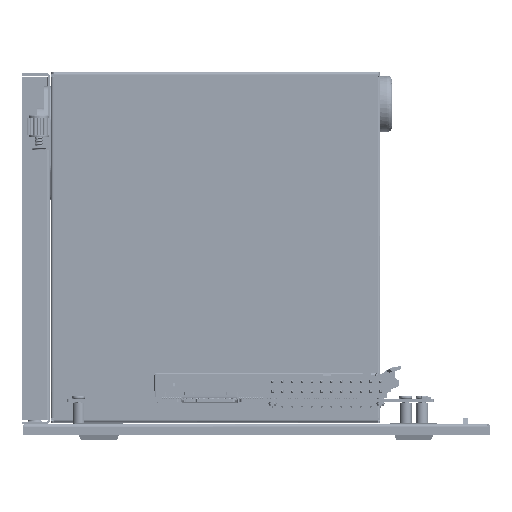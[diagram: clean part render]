
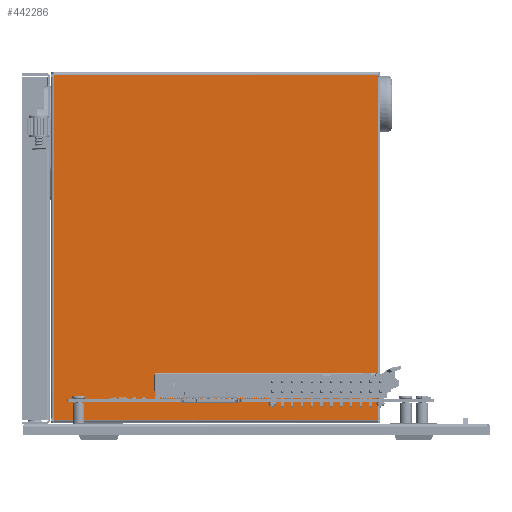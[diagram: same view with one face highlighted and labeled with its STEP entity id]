
A CAD part, front view. The second image highlights one B-rep face of the part: STEP entity #442286.
In plain terms, the highlighted free-form (B-spline) face has degree [1, 1] with [2, 2] control points.
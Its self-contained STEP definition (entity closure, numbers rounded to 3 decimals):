
#440216 = VERTEX_POINT('',#440217);
#440217 = CARTESIAN_POINT('',(-73.8,0.,-69.3)
  );
#440296 = VERTEX_POINT('',#440297);
#440297 = CARTESIAN_POINT('',(-73.,0.,
    -69.3));
#440332 = VERTEX_POINT('',#440333);
#440333 = CARTESIAN_POINT('',(73.,0.,
    -69.3));
#440411 = VERTEX_POINT('',#440412);
#440412 = CARTESIAN_POINT('',(73.8,0.,-69.3)
  );
#440448 = VERTEX_POINT('',#440449);
#440449 = CARTESIAN_POINT('',(73.8,0.,69.3));
#440509 = VERTEX_POINT('',#440510);
#440510 = CARTESIAN_POINT('',(-73.8,0.,69.3));
#441436 = EDGE_CURVE('',#440509,#440216,#441437,.T.);
#441437 = B_SPLINE_CURVE_WITH_KNOTS('',1,(#441438,#441439),
  .UNSPECIFIED.,.F.,.F.,(2,2),(0.,1.),.PIECEWISE_BEZIER_KNOTS.);
#441438 = CARTESIAN_POINT('',(-73.8,0.,69.3));
#441439 = CARTESIAN_POINT('',(-73.8,0.,-69.3));
#441452 = EDGE_CURVE('',#440216,#440296,#441453,.T.);
#441453 = B_SPLINE_CURVE_WITH_KNOTS('',1,(#441454,#441455),
  .UNSPECIFIED.,.F.,.F.,(2,2),(0.,1.),.PIECEWISE_BEZIER_KNOTS.);
#441454 = CARTESIAN_POINT('',(-73.8,0.,-69.3));
#441455 = CARTESIAN_POINT('',(-73.,0.,-69.3));
#441474 = EDGE_CURVE('',#440296,#440332,#441475,.T.);
#441475 = B_SPLINE_CURVE_WITH_KNOTS('',1,(#441476,#441477),
  .UNSPECIFIED.,.F.,.F.,(2,2),(0.,1.),.PIECEWISE_BEZIER_KNOTS.);
#441476 = CARTESIAN_POINT('',(-73.,0.,-69.3));
#441477 = CARTESIAN_POINT('',(73.,0.,-69.3));
#441489 = EDGE_CURVE('',#440332,#440411,#441490,.T.);
#441490 = B_SPLINE_CURVE_WITH_KNOTS('',1,(#441491,#441492),
  .UNSPECIFIED.,.F.,.F.,(2,2),(0.,1.),.PIECEWISE_BEZIER_KNOTS.);
#441491 = CARTESIAN_POINT('',(73.,0.,-69.3));
#441492 = CARTESIAN_POINT('',(73.8,0.,-69.3));
#441512 = EDGE_CURVE('',#440411,#440448,#441513,.T.);
#441513 = B_SPLINE_CURVE_WITH_KNOTS('',1,(#441514,#441515),
  .UNSPECIFIED.,.F.,.F.,(2,2),(0.,1.),.PIECEWISE_BEZIER_KNOTS.);
#441514 = CARTESIAN_POINT('',(73.8,0.,-69.3));
#441515 = CARTESIAN_POINT('',(73.8,0.,69.3));
#441528 = VERTEX_POINT('',#441529);
#441529 = CARTESIAN_POINT('',(73.,0.,
    69.3));
#441536 = EDGE_CURVE('',#440448,#441528,#441537,.T.);
#441537 = B_SPLINE_CURVE_WITH_KNOTS('',1,(#441538,#441539),
  .UNSPECIFIED.,.F.,.F.,(2,2),(0.,1.),.PIECEWISE_BEZIER_KNOTS.);
#441538 = CARTESIAN_POINT('',(73.8,0.,69.3));
#441539 = CARTESIAN_POINT('',(73.,0.,69.3));
#441564 = VERTEX_POINT('',#441565);
#441565 = CARTESIAN_POINT('',(-73.,0.,
    69.3));
#441570 = EDGE_CURVE('',#441564,#440509,#441571,.T.);
#441571 = B_SPLINE_CURVE_WITH_KNOTS('',1,(#441572,#441573),
  .UNSPECIFIED.,.F.,.F.,(2,2),(0.,1.),.PIECEWISE_BEZIER_KNOTS.);
#441572 = CARTESIAN_POINT('',(-73.,0.,69.3));
#441573 = CARTESIAN_POINT('',(-73.8,0.,69.3));
#442286 = ADVANCED_FACE('',(#442287),#442301,.T.);
#442287 = FACE_BOUND('',#442288,.T.);
#442288 = EDGE_LOOP('',(#442289,#442290,#442295,#442296,#442297,#442298,
    #442299,#442300));
#442289 = ORIENTED_EDGE('',*,*,#441536,.T.);
#442290 = ORIENTED_EDGE('',*,*,#442291,.T.);
#442291 = EDGE_CURVE('',#441528,#441564,#442292,.T.);
#442292 = B_SPLINE_CURVE_WITH_KNOTS('',1,(#442293,#442294),
  .UNSPECIFIED.,.F.,.F.,(2,2),(0.,1.),.PIECEWISE_BEZIER_KNOTS.);
#442293 = CARTESIAN_POINT('',(73.,0.,69.3));
#442294 = CARTESIAN_POINT('',(-73.,0.,69.3));
#442295 = ORIENTED_EDGE('',*,*,#441570,.T.);
#442296 = ORIENTED_EDGE('',*,*,#441436,.T.);
#442297 = ORIENTED_EDGE('',*,*,#441452,.T.);
#442298 = ORIENTED_EDGE('',*,*,#441474,.T.);
#442299 = ORIENTED_EDGE('',*,*,#441489,.T.);
#442300 = ORIENTED_EDGE('',*,*,#441512,.T.);
#442301 = B_SPLINE_SURFACE_WITH_KNOTS('',1,1,(
    (#442302,#442303)
    ,(#442304,#442305
    )),.UNSPECIFIED.,.F.,.F.,.F.,(2,2),(2,2),(0.,1.),(0.,1.),
  .PIECEWISE_BEZIER_KNOTS.);
#442302 = CARTESIAN_POINT('',(-73.8,0.,69.3));
#442303 = CARTESIAN_POINT('',(73.8,0.,69.3));
#442304 = CARTESIAN_POINT('',(-73.8,0.,-69.3));
#442305 = CARTESIAN_POINT('',(73.8,0.,-69.3));
